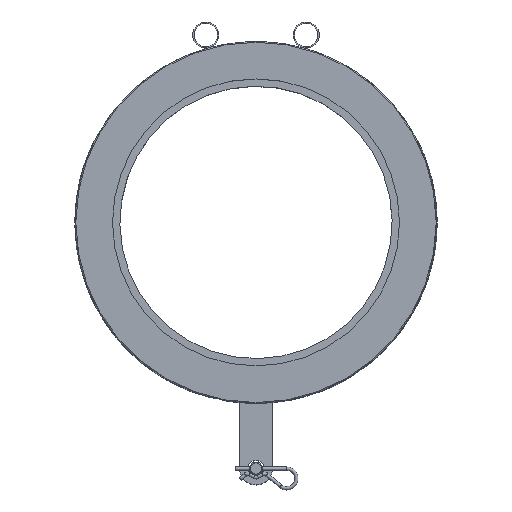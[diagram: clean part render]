
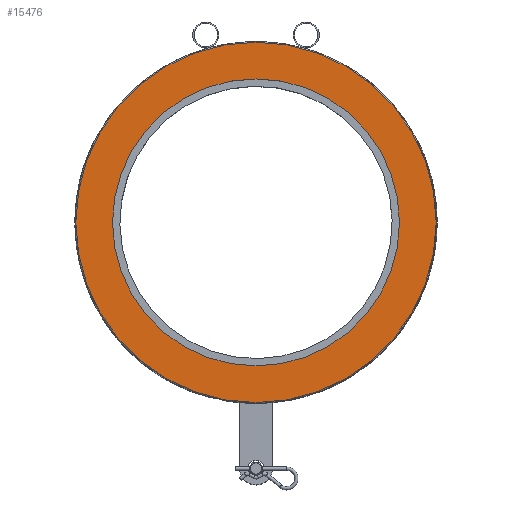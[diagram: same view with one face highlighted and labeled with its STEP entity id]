
A CAD part, top view. The second image highlights one B-rep face of the part: STEP entity #15476.
In plain terms, the highlighted planar face has unit normal (0, 0, 1).
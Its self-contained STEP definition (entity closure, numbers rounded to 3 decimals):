
#508=FACE_BOUND('',#3422,.T.);
#1666=PLANE('',#16305);
#2494=FACE_OUTER_BOUND('',#3421,.T.);
#3421=EDGE_LOOP('',(#14222));
#3422=EDGE_LOOP('',(#14223));
#5972=CIRCLE('',#16301,176.);
#5973=CIRCLE('',#16303,221.);
#7479=VERTEX_POINT('',#36736);
#7480=VERTEX_POINT('',#36740);
#9741=EDGE_CURVE('',#7479,#7479,#5972,.T.);
#9743=EDGE_CURVE('',#7480,#7480,#5973,.T.);
#14222=ORIENTED_EDGE('',*,*,#9743,.F.);
#14223=ORIENTED_EDGE('',*,*,#9741,.T.);
#15476=ADVANCED_FACE('',(#2494,#508),#1666,.T.);
#16301=AXIS2_PLACEMENT_3D('',#36737,#18937,#18938);
#16303=AXIS2_PLACEMENT_3D('',#36741,#18942,#18943);
#16305=AXIS2_PLACEMENT_3D('',#36744,#18947,#18948);
#18937=DIRECTION('center_axis',(0.,0.,
-1.));
#18938=DIRECTION('ref_axis',(-1.,0.,0.));
#18942=DIRECTION('center_axis',(0.,0.,
-1.));
#18943=DIRECTION('ref_axis',(-1.,0.,0.));
#18947=DIRECTION('center_axis',(0.,0.,
1.));
#18948=DIRECTION('ref_axis',(-1.,0.,0.));
#36736=CARTESIAN_POINT('',(176.,0.,112.));
#36737=CARTESIAN_POINT('Origin',(0.,0.,
112.));
#36740=CARTESIAN_POINT('',(221.,0.,112.));
#36741=CARTESIAN_POINT('Origin',(0.,0.,
112.));
#36744=CARTESIAN_POINT('Origin',(0.,0.,
112.));
